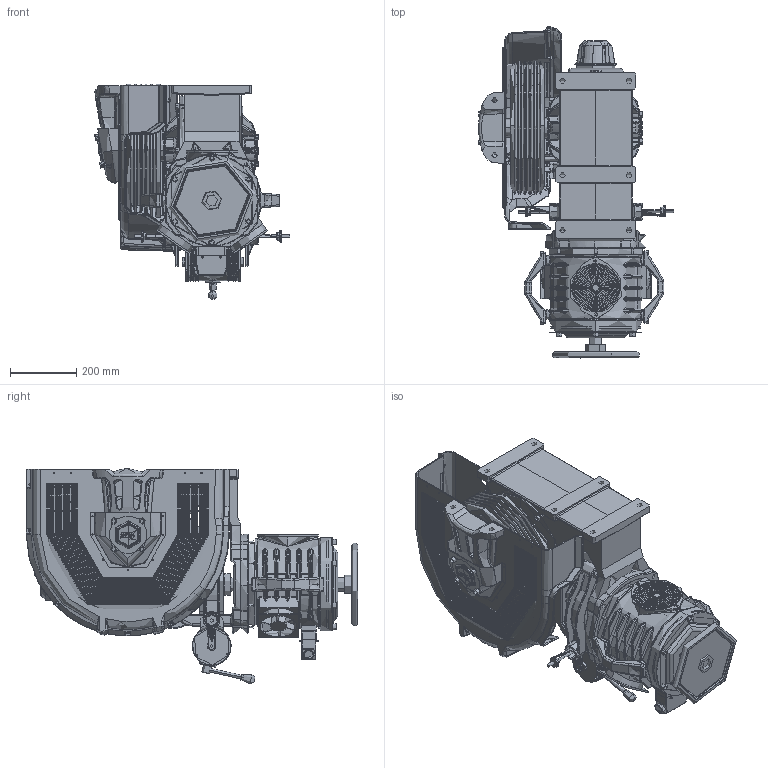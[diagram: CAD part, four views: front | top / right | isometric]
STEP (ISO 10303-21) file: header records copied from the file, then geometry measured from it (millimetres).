
FILE_DESCRIPTION (( 'STEP AP214' ), '1' );
FILE_NAME ('ST75120.STEP', '2026-01-19T10:40:14', ( '' ), ( '' ), 'SwSTEP 2.0', 'SolidWorks 2023', '' );
FILE_SCHEMA (( 'AUTOMOTIVE_DESIGN' ));
Length unit declared in the file: millimetre
Products named in the file (1): ST75120
Bounding box: 586.99 x 998.18 x 649.11 mm (x, y, z)
Topology: 90 solids, 98 shells, 8523 faces, 21031 edges, 12555 vertices
Faces by surface type: plane 2442, cylinder 2441, bspline 2131, torus 742, cone 573, sphere 194
Full cylindrical faces by diameter (mm): 20 x3
Entity records: 332538 total; most frequent: CARTESIAN_POINT 146626, ORIENTED_EDGE 41692, DIRECTION 35279, EDGE_CURVE 20846, AXIS2_PLACEMENT_3D 13978, VERTEX_POINT 12519, EDGE_LOOP 9301, FACE_OUTER_BOUND 8521
